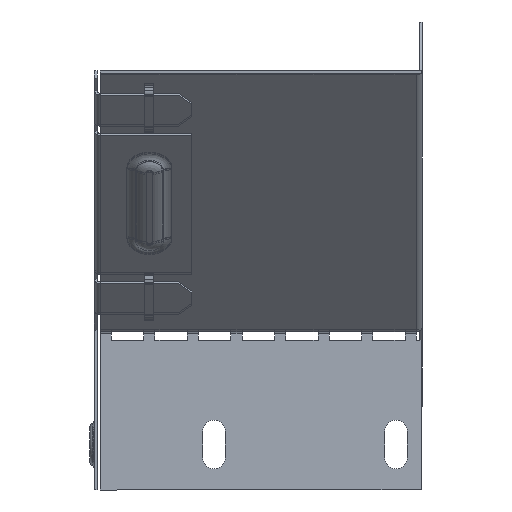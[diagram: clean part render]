
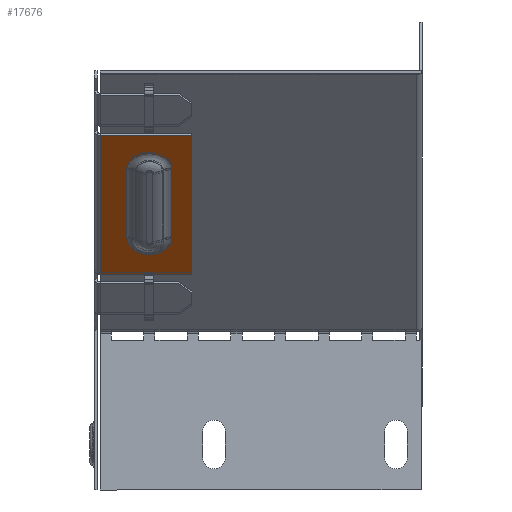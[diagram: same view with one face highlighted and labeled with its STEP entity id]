
A CAD part, left-side view. The second image highlights one B-rep face of the part: STEP entity #17676.
In plain terms, the highlighted planar face has unit normal (-0.707, 0, -0.707).
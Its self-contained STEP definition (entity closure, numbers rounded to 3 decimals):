
#115 = CARTESIAN_POINT ( 'NONE',  ( -79.993, 76.183, -66.685 ) ) ;
#647 = EDGE_CURVE ( 'NONE', #785, #19833, #12478, .T. ) ;
#785 = VERTEX_POINT ( 'NONE', #14808 ) ;
#1002 = VERTEX_POINT ( 'NONE', #20841 ) ;
#1719 = PLANE ( 'NONE',  #14490 ) ;
#1742 = EDGE_CURVE ( 'NONE', #7171, #13658, #22995, .T. ) ;
#1806 = ORIENTED_EDGE ( 'NONE', *, *, #2247, .F. ) ;
#2247 = EDGE_CURVE ( 'NONE', #20235, #14556, #3824, .T. ) ;
#2777 = CARTESIAN_POINT ( 'NONE',  ( -69.022, 70., -77.656 ) ) ;
#3021 = DIRECTION ( 'NONE',  ( 0.5, -0.707, -0.5 ) ) ;
#3111 = CARTESIAN_POINT ( 'NONE',  ( -79.993, 90.017, -66.685 ) ) ;
#3278 = CARTESIAN_POINT ( 'NONE',  ( -69.022, 70., -77.656 ) ) ;
#3329 = CARTESIAN_POINT ( 'NONE',  ( -128.087, 98.2, -18.591 ) ) ;
#3824 = LINE ( 'NONE', #3329, #17663 ) ;
#4751 = CARTESIAN_POINT ( 'NONE',  ( -111.823, 70., -34.855 ) ) ;
#4964 = CARTESIAN_POINT ( 'NONE',  ( -65.837, 70., -80.841 ) ) ;
#4975 = DIRECTION ( 'NONE',  ( 0., -1., 0. ) ) ;
#5021 = LINE ( 'NONE', #18949, #6127 ) ;
#5507 = DIRECTION ( 'NONE',  ( 0.707, 0., 0.707 ) ) ;
#5866 = AXIS2_PLACEMENT_3D ( 'NONE', #22622, #8365, #3021 ) ;
#6127 = VECTOR ( 'NONE', #8412, 1000. ) ;
#6404 = ORIENTED_EDGE ( 'NONE', *, *, #8446, .T. ) ;
#6428 = ORIENTED_EDGE ( 'NONE', *, *, #22855, .T. ) ;
#7171 = VERTEX_POINT ( 'NONE', #2777 ) ;
#7239 = CARTESIAN_POINT ( 'NONE',  ( -65.837, 100., -80.841 ) ) ;
#7285 = CARTESIAN_POINT ( 'NONE',  ( -79.993, 83.1, -66.685 ) ) ;
#7308 = DIRECTION ( 'NONE',  ( 0.707, 0., -0.707 ) ) ;
#7463 = ORIENTED_EDGE ( 'NONE', *, *, #1742, .T. ) ;
#7596 = EDGE_LOOP ( 'NONE', ( #6428, #15783, #11230, #13341 ) ) ;
#7990 = VECTOR ( 'NONE', #12056, 1000. ) ;
#8365 = DIRECTION ( 'NONE',  ( 0.707, 0., 0.707 ) ) ;
#8412 = DIRECTION ( 'NONE',  ( -0.707, 0., 0.707 ) ) ;
#8446 = EDGE_CURVE ( 'NONE', #20235, #7171, #22398, .T. ) ;
#8908 = FACE_OUTER_BOUND ( 'NONE', #14839, .T. ) ;
#8950 = DIRECTION ( 'NONE',  ( 0.707, 0., 0.707 ) ) ;
#9084 = CARTESIAN_POINT ( 'NONE',  ( -69.022, 98.2, -77.656 ) ) ;
#9998 = VECTOR ( 'NONE', #21291, 1000. ) ;
#10063 = CARTESIAN_POINT ( 'NONE',  ( -111.823, 70., -34.855 ) ) ;
#10953 = DIRECTION ( 'NONE',  ( 0.5, -0.707, -0.5 ) ) ;
#11230 = ORIENTED_EDGE ( 'NONE', *, *, #17433, .T. ) ;
#11784 = CIRCLE ( 'NONE', #5866, 6.917 ) ;
#12056 = DIRECTION ( 'NONE',  ( -0.707, 0., 0.707 ) ) ;
#12478 = CIRCLE ( 'NONE', #12503, 6.917 ) ;
#12503 = AXIS2_PLACEMENT_3D ( 'NONE', #7285, #5507, #10953 ) ;
#13341 = ORIENTED_EDGE ( 'NONE', *, *, #18980, .T. ) ;
#13379 = DIRECTION ( 'NONE',  ( 0., 1., 0. ) ) ;
#13603 = LINE ( 'NONE', #4751, #22460 ) ;
#13625 = FACE_BOUND ( 'NONE', #7596, .T. ) ;
#13658 = VERTEX_POINT ( 'NONE', #10063 ) ;
#14443 = LINE ( 'NONE', #115, #9998 ) ;
#14490 = AXIS2_PLACEMENT_3D ( 'NONE', #7239, #8950, #7308 ) ;
#14556 = VERTEX_POINT ( 'NONE', #22807 ) ;
#14808 = CARTESIAN_POINT ( 'NONE',  ( -79.993, 76.183, -66.685 ) ) ;
#14839 = EDGE_LOOP ( 'NONE', ( #1806, #6404, #7463, #18861 ) ) ;
#15783 = ORIENTED_EDGE ( 'NONE', *, *, #647, .T. ) ;
#16144 = CARTESIAN_POINT ( 'NONE',  ( -101.206, 76.183, -45.472 ) ) ;
#17433 = EDGE_CURVE ( 'NONE', #19833, #1002, #5021, .T. ) ;
#17663 = VECTOR ( 'NONE', #22540, 1000. ) ;
#17676 = ADVANCED_FACE ( 'NONE', ( #13625, #8908 ), #1719, .F. ) ;
#18861 = ORIENTED_EDGE ( 'NONE', *, *, #20574, .T. ) ;
#18949 = CARTESIAN_POINT ( 'NONE',  ( -79.993, 90.017, -66.685 ) ) ;
#18980 = EDGE_CURVE ( 'NONE', #1002, #20183, #11784, .T. ) ;
#19833 = VERTEX_POINT ( 'NONE', #3111 ) ;
#20183 = VERTEX_POINT ( 'NONE', #16144 ) ;
#20235 = VERTEX_POINT ( 'NONE', #9084 ) ;
#20574 = EDGE_CURVE ( 'NONE', #13658, #14556, #13603, .T. ) ;
#20749 = VECTOR ( 'NONE', #4975, 1000. ) ;
#20841 = CARTESIAN_POINT ( 'NONE',  ( -101.206, 90.017, -45.472 ) ) ;
#21291 = DIRECTION ( 'NONE',  ( 0.707, 0., -0.707 ) ) ;
#22398 = LINE ( 'NONE', #3278, #20749 ) ;
#22460 = VECTOR ( 'NONE', #13379, 1000. ) ;
#22540 = DIRECTION ( 'NONE',  ( -0.707, 0., 0.707 ) ) ;
#22622 = CARTESIAN_POINT ( 'NONE',  ( -101.206, 83.1, -45.472 ) ) ;
#22807 = CARTESIAN_POINT ( 'NONE',  ( -111.823, 98.2, -34.855 ) ) ;
#22855 = EDGE_CURVE ( 'NONE', #20183, #785, #14443, .T. ) ;
#22995 = LINE ( 'NONE', #4964, #7990 ) ;
